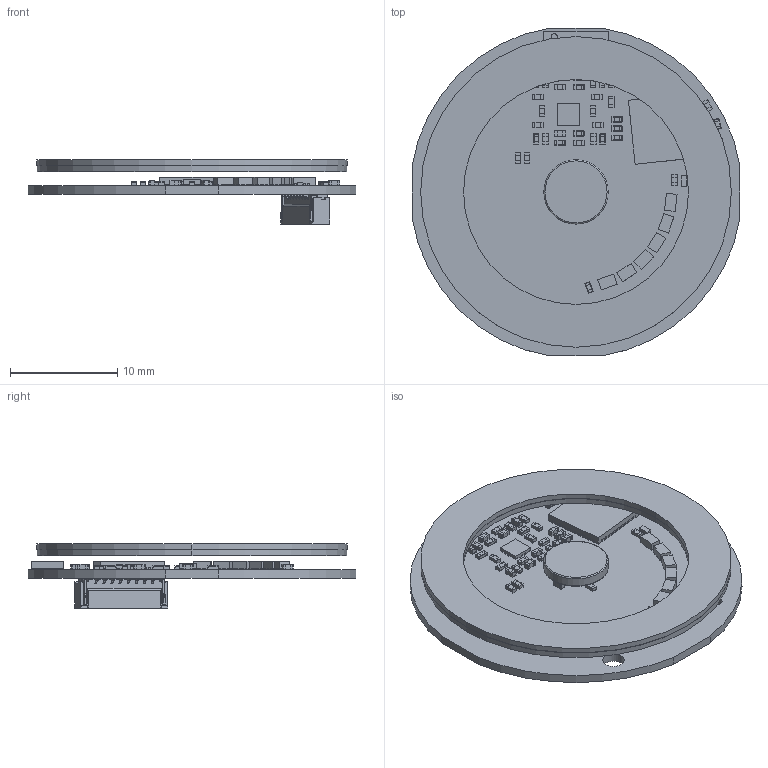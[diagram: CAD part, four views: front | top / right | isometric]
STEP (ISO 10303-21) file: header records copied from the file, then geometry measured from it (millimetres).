
FILE_DESCRIPTION((''),'2;1');
FILE_NAME('EAS-J034ZP-HD----PRBS摩傖_34婓粣_ASM','2026-09-02T',('guxinfeng'),(''),'PRO/ENGINEER BY PARAMETRIC TECHNOLOGY CORPORATION, 2012480','PRO/ENGINEER BY PARAMETRIC TECHNOLOGY CORPORATION, 2012480','');
FILE_SCHEMA(('CONFIG_CONTROL_DESIGN'));
Products named in the file (177): OPEN_CASCADE_STEP_TRANSLATO-258; BOARD_ASM; OPEN_CASCADE_STEP_TRANSLATO-827; OPEN_CASCADE_STEP_TRANSLAT-1300; TERMINAL-813_ASM; OPEN_CASCADE_STEP_TRANSLAT-1796; MID_BODY-1786_ASM; 6556387168_ASM; C8_ASM; OPEN_CASCADE_STEP_TRANSLAT-2182; OPEN_CASCADE_STEP_TRANSLAT-2655; TERMINAL-2168_ASM; OPEN_CASCADE_STEP_TRANSLAT-3151; MID_BODY-3141_ASM; 6183396992_ASM; C9_ASM; OPEN_CASCADE_STEP_TRANSLAT-3537; OPEN_CASCADE_STEP_TRANSLAT-4010; TERMINAL-3523_ASM; OPEN_CASCADE_STEP_TRANSLAT-4506; MID_BODY-4496_ASM; 5798182976_ASM; C10_ASM; OPEN_CASCADE_STEP_TRANSLAT-4892; OPEN_CASCADE_STEP_TRANSLAT-5365; TERMINAL-4878_ASM; OPEN_CASCADE_STEP_TRANSLAT-5861; MID_BODY-5851_ASM; 8160753424_ASM; C11_ASM; OPEN_CASCADE_STEP_TRANSLAT-6247; OPEN_CASCADE_STEP_TRANSLAT-6720; TERMINAL-6233_ASM; OPEN_CASCADE_STEP_TRANSLAT-7216; MID_BODY-7206_ASM; 6183400432_ASM; C12_ASM; C14_ASM; C15_ASM; OPEN_CASCADE_STEP_TRANSLAT-7658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
Assembly tree (215 placements, depth 6):
  EAS-J034ZP-HD----PRBS摩傖_34婓粣_ASM
    PCB_ASM
      BOARD_ASM
        OPEN_CASCADE_STEP_TRANSLATO-258
      C8_ASM
        6556387168_ASM
          TERMINAL-813_ASM
            OPEN_CASCADE_STEP_TRANSLATO-827
            OPEN_CASCADE_STEP_TRANSLAT-1300
          MID_BODY-1786_ASM
            OPEN_CASCADE_STEP_TRANSLAT-1796
      C9_ASM
        6183396992_ASM
          TERMINAL-2168_ASM
            OPEN_CASCADE_STEP_TRANSLAT-2182
            OPEN_CASCADE_STEP_TRANSLAT-2655
          MID_BODY-3141_ASM
            OPEN_CASCADE_STEP_TRANSLAT-3151
      C10_ASM
        5798182976_ASM
          TERMINAL-3523_ASM
            OPEN_CASCADE_STEP_TRANSLAT-3537
            OPEN_CASCADE_STEP_TRANSLAT-4010
          MID_BODY-4496_ASM
            OPEN_CASCADE_STEP_TRANSLAT-4506
      C11_ASM
        8160753424_ASM
          TERMINAL-4878_ASM
            OPEN_CASCADE_STEP_TRANSLAT-4892
            OPEN_CASCADE_STEP_TRANSLAT-5365
          MID_BODY-5851_ASM
            OPEN_CASCADE_STEP_TRANSLAT-5861
      C12_ASM
        6183400432_ASM
          TERMINAL-6233_ASM
            OPEN_CASCADE_STEP_TRANSLAT-6247
            OPEN_CASCADE_STEP_TRANSLAT-6720
          MID_BODY-7206_ASM
            OPEN_CASCADE_STEP_TRANSLAT-7216
      C14_ASM
        6183396992_ASM
          TERMINAL-2168_ASM
            OPEN_CASCADE_STEP_TRANSLAT-2182
            OPEN_CASCADE_STEP_TRANSLAT-2655
          MID_BODY-3141_ASM
            OPEN_CASCADE_STEP_TRANSLAT-3151
      C15_ASM
        5798182976_ASM
          TERMINAL-3523_ASM
            OPEN_CASCADE_STEP_TRANSLAT-3537
            OPEN_CASCADE_STEP_TRANSLAT-4010
          MID_BODY-4496_ASM
            OPEN_CASCADE_STEP_TRANSLAT-4506
      C16_ASM
        6222521520_ASM
          TERMINAL-7644_ASM
            OPEN_CASCADE_STEP_TRANSLAT-7658
            OPEN_CASCADE_STEP_TRANSLAT-8131
          MID_BODY-8617_ASM
            OPEN_CASCADE_STEP_TRANSLAT-8627
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Bounding box: 30.61 x 30.61 x 5.98 mm (x, y, z)
Volume: 1041.7 mm3; surface area: 3645.9 mm2
Topology: 184 solids, 185 shells, 3674 faces, 9762 edges, 6250 vertices
Faces by surface type: plane 2819, cylinder 703, sphere 144, cone 4, torus 4
Entity records: 97932 total; most frequent: CARTESIAN_POINT 13702, DIRECTION 13028, ORIENTED_EDGE 12732, PRESENTATION_STYLE_ASSIGNMENT 6452, STYLED_ITEM 6392, EDGE_CURVE 6366, CURVE_STYLE 6261, VECTOR 5336
